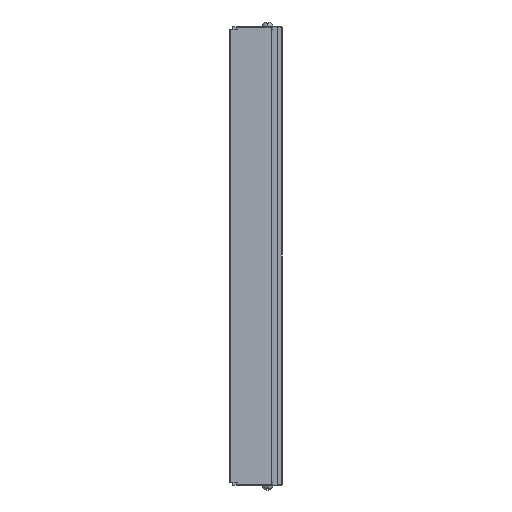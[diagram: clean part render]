
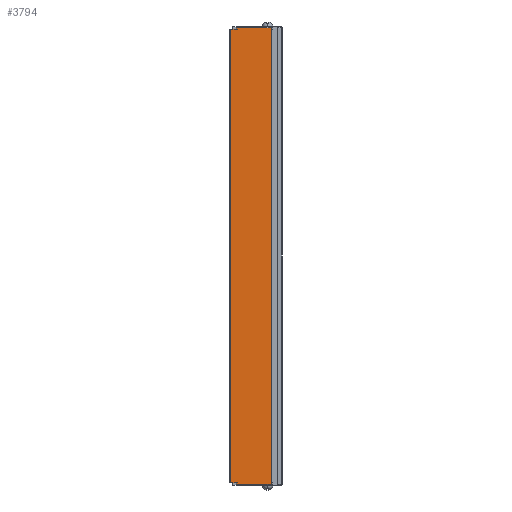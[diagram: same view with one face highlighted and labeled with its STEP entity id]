
A CAD part, left-side view. The second image highlights one B-rep face of the part: STEP entity #3794.
In plain terms, the highlighted planar face has unit normal (-1, 0, 0).
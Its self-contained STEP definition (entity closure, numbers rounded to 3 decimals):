
#161=DIRECTION('',(0.,1.,0.));
#162=VECTOR('',#161,3.3);
#163=CARTESIAN_POINT('',(-19.,13.2,117.));
#164=LINE('',#163,#162);
#433=DIRECTION('',(0.,0.,-1.));
#434=VECTOR('',#433,1.);
#435=CARTESIAN_POINT('',(-19.,13.2,-117.));
#436=LINE('',#435,#434);
#445=DIRECTION('',(0.,1.,0.));
#446=VECTOR('',#445,3.3);
#447=CARTESIAN_POINT('',(-19.,13.2,-117.));
#448=LINE('',#447,#446);
#449=DIRECTION('',(0.,0.,1.));
#450=VECTOR('',#449,1.);
#451=CARTESIAN_POINT('',(-19.,13.2,117.));
#452=LINE('',#451,#450);
#457=DIRECTION('',(0.,0.,1.));
#458=VECTOR('',#457,236.);
#459=CARTESIAN_POINT('',(-19.,-4.3,-118.));
#460=LINE('',#459,#458);
#1009=DIRECTION('',(0.,-1.,0.));
#1010=VECTOR('',#1009,17.5);
#1011=CARTESIAN_POINT('',(-19.,13.2,-118.));
#1012=LINE('',#1011,#1010);
#2109=DIRECTION('',(0.,1.,0.));
#2110=VECTOR('',#2109,17.5);
#2111=CARTESIAN_POINT('',(-19.,-4.3,118.));
#2112=LINE('',#2111,#2110);
#2345=DIRECTION('',(0.,0.,-1.));
#2346=VECTOR('',#2345,234.);
#2347=CARTESIAN_POINT('',(-19.,16.5,117.));
#2348=LINE('',#2347,#2346);
#2381=CARTESIAN_POINT('',(-19.,16.5,-117.));
#2382=VERTEX_POINT('',#2381);
#2391=CARTESIAN_POINT('',(-19.,16.5,117.));
#2392=VERTEX_POINT('',#2391);
#2453=CARTESIAN_POINT('',(-19.,13.2,118.));
#2454=VERTEX_POINT('',#2453);
#2659=CARTESIAN_POINT('',(-19.,-4.3,118.));
#2661=VERTEX_POINT('',#2659);
#2741=CARTESIAN_POINT('',(-19.,13.2,117.));
#2743=VERTEX_POINT('',#2741);
#2765=CARTESIAN_POINT('',(-19.,13.2,-118.));
#2767=VERTEX_POINT('',#2765);
#2771=CARTESIAN_POINT('',(-19.,-4.3,-118.));
#2772=VERTEX_POINT('',#2771);
#2995=CARTESIAN_POINT('',(-19.,13.2,-117.));
#2996=VERTEX_POINT('',#2995);
#3775=CARTESIAN_POINT('',(-19.,16.5,-117.));
#3776=DIRECTION('',(-1.,0.,0.));
#3777=DIRECTION('',(0.,-1.,0.));
#3778=AXIS2_PLACEMENT_3D('',#3775,#3776,#3777);
#3779=PLANE('',#3778);
#3781=ORIENTED_EDGE('',*,*,#3780,.F.);
#3783=ORIENTED_EDGE('',*,*,#3782,.F.);
#3784=ORIENTED_EDGE('',*,*,#3766,.F.);
#3785=ORIENTED_EDGE('',*,*,#3134,.T.);
#3787=ORIENTED_EDGE('',*,*,#3786,.F.);
#3788=ORIENTED_EDGE('',*,*,#3357,.F.);
#3789=ORIENTED_EDGE('',*,*,#3523,.T.);
#3791=ORIENTED_EDGE('',*,*,#3790,.F.);
#3792=EDGE_LOOP('',(#3781,#3783,#3784,#3785,#3787,#3788,#3789,#3791));
#3793=FACE_OUTER_BOUND('',#3792,.F.);
#3134=EDGE_CURVE('',#2996,#2382,#448,.T.);
#3357=EDGE_CURVE('',#2743,#2392,#164,.T.);
#3523=EDGE_CURVE('',#2743,#2454,#452,.T.);
#3766=EDGE_CURVE('',#2996,#2767,#436,.T.);
#3780=EDGE_CURVE('',#2772,#2661,#460,.T.);
#3782=EDGE_CURVE('',#2767,#2772,#1012,.T.);
#3786=EDGE_CURVE('',#2392,#2382,#2348,.T.);
#3790=EDGE_CURVE('',#2661,#2454,#2112,.T.);
#3794=ADVANCED_FACE('',(#3793),#3779,.T.);
